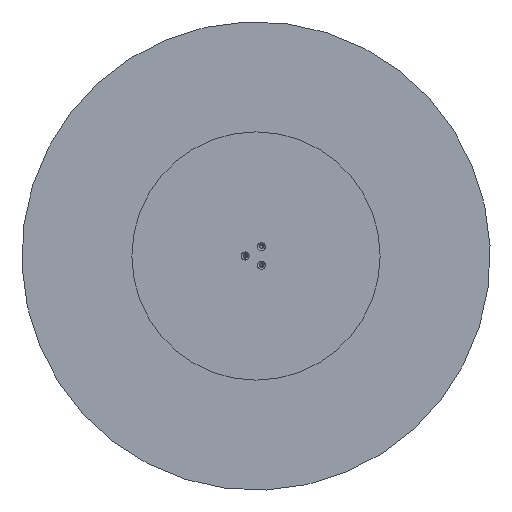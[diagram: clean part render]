
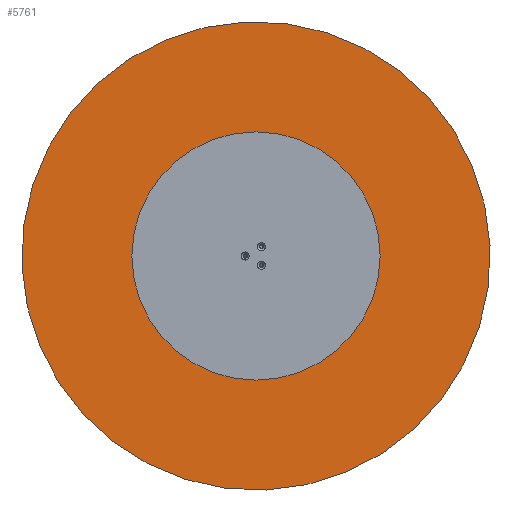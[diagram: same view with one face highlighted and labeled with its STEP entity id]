
A CAD part, front view. The second image highlights one B-rep face of the part: STEP entity #5761.
In plain terms, the highlighted planar face has unit normal (0, -1, 0).
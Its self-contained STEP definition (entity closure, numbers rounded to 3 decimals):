
#518 = VERTEX_POINT ( 'NONE', #6168 ) ;
#732 = DIRECTION ( 'NONE',  ( 0., 0., -1. ) ) ;
#1228 = DIRECTION ( 'NONE',  ( 0., 0., -1. ) ) ;
#1515 = CIRCLE ( 'NONE', #2249, 500. ) ;
#1702 = DIRECTION ( 'NONE',  ( 0., -1., 0. ) ) ;
#1711 = FACE_OUTER_BOUND ( 'NONE', #4046, .T. ) ;
#1806 = DIRECTION ( 'NONE',  ( 0., 0., -1. ) ) ;
#2232 = PLANE ( 'NONE',  #5722 ) ;
#2249 = AXIS2_PLACEMENT_3D ( 'NONE', #4262, #4320, #732 ) ;
#2970 = CIRCLE ( 'NONE', #6355, 500. ) ;
#3726 = CARTESIAN_POINT ( 'NONE',  ( 0., 0., 0. ) ) ;
#4046 = EDGE_LOOP ( 'NONE', ( #6310, #4129 ) ) ;
#4129 = ORIENTED_EDGE ( 'NONE', *, *, #5804, .T. ) ;
#4262 = CARTESIAN_POINT ( 'NONE',  ( 0., 0., 0. ) ) ;
#4320 = DIRECTION ( 'NONE',  ( 0., -1., 0. ) ) ;
#4808 = CARTESIAN_POINT ( 'NONE',  ( 0., 0., -500. ) ) ;
#5266 = DIRECTION ( 'NONE',  ( 0., -1., 0. ) ) ;
#5398 = EDGE_CURVE ( 'NONE', #5867, #518, #2970, .T. ) ;
#5722 = AXIS2_PLACEMENT_3D ( 'NONE', #3726, #5266, #1806 ) ;
#5761 = ADVANCED_FACE ( 'NONE', ( #1711 ), #2232, .T. ) ;
#5804 = EDGE_CURVE ( 'NONE', #518, #5867, #1515, .T. ) ;
#5867 = VERTEX_POINT ( 'NONE', #4808 ) ;
#6168 = CARTESIAN_POINT ( 'NONE',  ( 0., 0., 500. ) ) ;
#6214 = CARTESIAN_POINT ( 'NONE',  ( 0., 0., 0. ) ) ;
#6310 = ORIENTED_EDGE ( 'NONE', *, *, #5398, .T. ) ;
#6355 = AXIS2_PLACEMENT_3D ( 'NONE', #6214, #1702, #1228 ) ;
